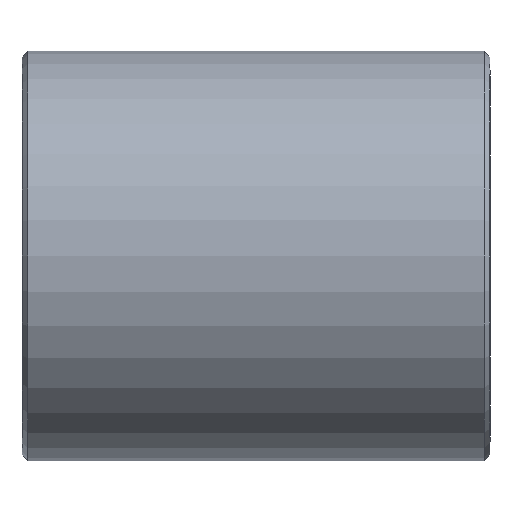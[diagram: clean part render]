
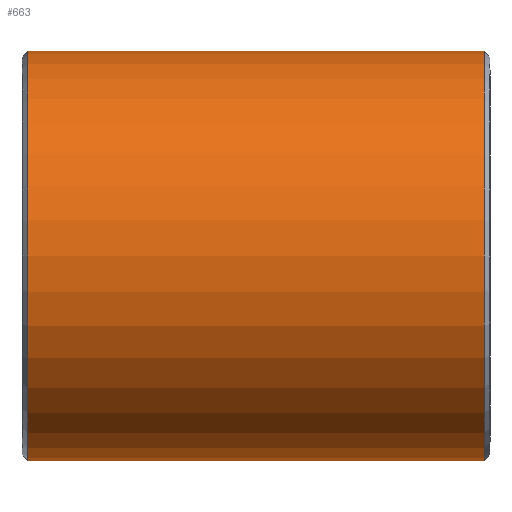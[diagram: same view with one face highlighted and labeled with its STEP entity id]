
A CAD part, left-side view. The second image highlights one B-rep face of the part: STEP entity #663.
In plain terms, the highlighted cylindrical face has radius 17.5 mm (diameter 35 mm), a partial arc.
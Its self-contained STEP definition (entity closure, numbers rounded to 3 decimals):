
#5 = ORIENTED_EDGE ( 'NONE', *, *, #89, .T. ) ;
#34 = CARTESIAN_POINT ( 'NONE',  ( 0., 1., 0. ) ) ;
#89 = EDGE_CURVE ( 'NONE', #562, #286, #779, .T. ) ;
#118 = DIRECTION ( 'NONE',  ( 0., -1., 0. ) ) ;
#130 = AXIS2_PLACEMENT_3D ( 'NONE', #34, #118, #955 ) ;
#138 = EDGE_LOOP ( 'NONE', ( #183, #5, #398, #1151 ) ) ;
#183 = ORIENTED_EDGE ( 'NONE', *, *, #947, .F. ) ;
#192 = CIRCLE ( 'NONE', #130, 17.5 ) ;
#212 = CYLINDRICAL_SURFACE ( 'NONE', #957, 17.5 ) ;
#245 = VECTOR ( 'NONE', #945, 1000. ) ;
#286 = VERTEX_POINT ( 'NONE', #303 ) ;
#303 = CARTESIAN_POINT ( 'NONE',  ( 0., -38., 17.5 ) ) ;
#349 = DIRECTION ( 'NONE',  ( 0., 0., 1. ) ) ;
#355 = VERTEX_POINT ( 'NONE', #718 ) ;
#398 = ORIENTED_EDGE ( 'NONE', *, *, #509, .T. ) ;
#448 = CARTESIAN_POINT ( 'NONE',  ( 0., 65.513, 0. ) ) ;
#453 = DIRECTION ( 'NONE',  ( 0., 1., 0. ) ) ;
#509 = EDGE_CURVE ( 'NONE', #286, #355, #870, .T. ) ;
#562 = VERTEX_POINT ( 'NONE', #1267 ) ;
#603 = VERTEX_POINT ( 'NONE', #1147 ) ;
#634 = CARTESIAN_POINT ( 'NONE',  ( 0., 65.513, 17.5 ) ) ;
#651 = CARTESIAN_POINT ( 'NONE',  ( 0., -38., 0. ) ) ;
#663 = ADVANCED_FACE ( 'NONE', ( #777 ), #212, .T. ) ;
#718 = CARTESIAN_POINT ( 'NONE',  ( 0., 1., 17.5 ) ) ;
#719 = EDGE_CURVE ( 'NONE', #355, #603, #192, .T. ) ;
#777 = FACE_OUTER_BOUND ( 'NONE', #138, .T. ) ;
#779 = CIRCLE ( 'NONE', #1163, 17.5 ) ;
#870 = LINE ( 'NONE', #634, #245 ) ;
#876 = VECTOR ( 'NONE', #997, 1000. ) ;
#945 = DIRECTION ( 'NONE',  ( 0., 1., 0. ) ) ;
#947 = EDGE_CURVE ( 'NONE', #562, #603, #1074, .T. ) ;
#955 = DIRECTION ( 'NONE',  ( 0., 0., 1. ) ) ;
#957 = AXIS2_PLACEMENT_3D ( 'NONE', #448, #1075, #349 ) ;
#997 = DIRECTION ( 'NONE',  ( 0., 1., 0. ) ) ;
#1074 = LINE ( 'NONE', #1225, #876 ) ;
#1075 = DIRECTION ( 'NONE',  ( 0., 1., 0. ) ) ;
#1147 = CARTESIAN_POINT ( 'NONE',  ( 0., 1., -17.5 ) ) ;
#1151 = ORIENTED_EDGE ( 'NONE', *, *, #719, .T. ) ;
#1163 = AXIS2_PLACEMENT_3D ( 'NONE', #651, #453, #1188 ) ;
#1188 = DIRECTION ( 'NONE',  ( 0., 0., -1. ) ) ;
#1225 = CARTESIAN_POINT ( 'NONE',  ( 0., 65.513, -17.5 ) ) ;
#1267 = CARTESIAN_POINT ( 'NONE',  ( 0., -38., -17.5 ) ) ;
